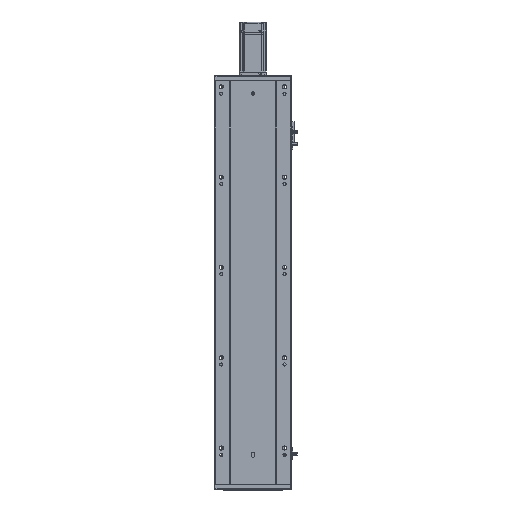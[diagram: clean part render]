
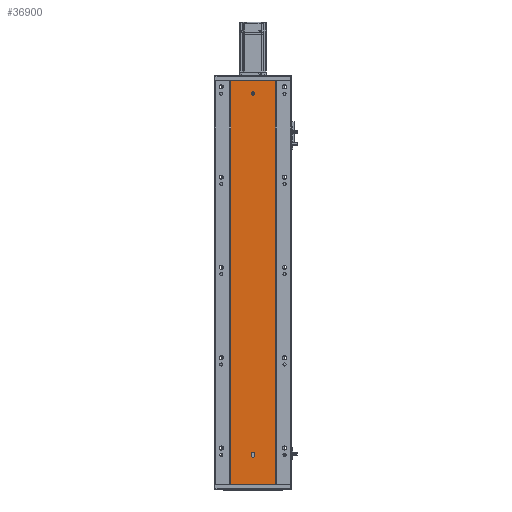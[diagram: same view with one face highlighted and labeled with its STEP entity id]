
A CAD part, front view. The second image highlights one B-rep face of the part: STEP entity #36900.
In plain terms, the highlighted planar face has unit normal (0, -1, 0).
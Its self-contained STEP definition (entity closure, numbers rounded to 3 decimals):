
#96 = VERTEX_POINT ( 'NONE', #57451 ) ;
#914 = VERTEX_POINT ( 'NONE', #24411 ) ;
#1108 = CARTESIAN_POINT ( 'NONE',  ( 136.47, 79.476, 870. ) ) ;
#1570 = DIRECTION ( 'NONE',  ( 0., -1., 0. ) ) ;
#3388 = LINE ( 'NONE', #47094, #43806 ) ;
#3857 = DIRECTION ( 'NONE',  ( 0., -1., 0. ) ) ;
#4613 = B_SPLINE_CURVE_WITH_KNOTS ( 'NONE', 3,
 ( #50857, #20137, #40697, #40466 ),
 .UNSPECIFIED., .F., .F.,
 ( 4, 4 ),
 ( 0., 1. ),
 .UNSPECIFIED. ) ;
#4629 = EDGE_CURVE ( 'NONE', #11044, #21401, #23922, .T. ) ;
#5301 = CARTESIAN_POINT ( 'NONE',  ( 185.97, 79.476, 0. ) ) ;
#5427 = DIRECTION ( 'NONE',  ( 0., 0., -1. ) ) ;
#5432 = ORIENTED_EDGE ( 'NONE', *, *, #33915, .F. ) ;
#6558 = LINE ( 'NONE', #38291, #56705 ) ;
#6796 = DIRECTION ( 'NONE',  ( 0., 0., -1. ) ) ;
#6905 = ORIENTED_EDGE ( 'NONE', *, *, #16962, .F. ) ;
#7137 = CARTESIAN_POINT ( 'NONE',  ( 0., 79.476, 894. ) ) ;
#7594 = DIRECTION ( 'NONE',  ( 0., 1., 0. ) ) ;
#9900 = CARTESIAN_POINT ( 'NONE',  ( 136.47, 79.476, 60.5 ) ) ;
#10475 = VERTEX_POINT ( 'NONE', #27610 ) ;
#10907 = EDGE_CURVE ( 'NONE', #51112, #21795, #56482, .T. ) ;
#11044 = VERTEX_POINT ( 'NONE', #29350 ) ;
#12532 = DIRECTION ( 'NONE',  ( 0., 0., 1. ) ) ;
#13886 = ORIENTED_EDGE ( 'NONE', *, *, #27188, .T. ) ;
#14073 = EDGE_LOOP ( 'NONE', ( #61901, #58064, #54766, #5432, #30057 ) ) ;
#14292 = CARTESIAN_POINT ( 'NONE',  ( 136.47, 79.476, 866. ) ) ;
#14548 = VERTEX_POINT ( 'NONE', #59504 ) ;
#15358 = CARTESIAN_POINT ( 'NONE',  ( 136.47, 79.476, 64.5 ) ) ;
#16962 = EDGE_CURVE ( 'NONE', #51088, #10475, #20549, .T. ) ;
#17757 = EDGE_CURVE ( 'NONE', #96, #914, #36864, .T. ) ;
#18016 = EDGE_LOOP ( 'NONE', ( #49380, #6905, #25510, #13886 ) ) ;
#18319 = EDGE_LOOP ( 'NONE', ( #38070, #48375 ) ) ;
#19987 = DIRECTION ( 'NONE',  ( 0., -1., 0. ) ) ;
#20052 = DIRECTION ( 'NONE',  ( 0., 0., -1. ) ) ;
#20137 = CARTESIAN_POINT ( 'NONE',  ( 86.97, 79.476, 596. ) ) ;
#20139 = EDGE_CURVE ( 'NONE', #914, #51112, #56709, .T. ) ;
#20549 = B_SPLINE_CURVE_WITH_KNOTS ( 'NONE', 3,
 ( #31081, #56630, #30404, #5301 ),
 .UNSPECIFIED., .F., .F.,
 ( 4, 4 ),
 ( 0., 1. ),
 .UNSPECIFIED. ) ;
#20790 = DIRECTION ( 'NONE',  ( 0., -1., 0. ) ) ;
#21401 = VERTEX_POINT ( 'NONE', #1108 ) ;
#21795 = VERTEX_POINT ( 'NONE', #9900 ) ;
#23226 = CIRCLE ( 'NONE', #62653, 4. ) ;
#23922 = CIRCLE ( 'NONE', #43639, 4. ) ;
#24411 = CARTESIAN_POINT ( 'NONE',  ( 132.47, 79.476, 67.5 ) ) ;
#24431 = DIRECTION ( 'NONE',  ( 0., 0., -1. ) ) ;
#25202 = AXIS2_PLACEMENT_3D ( 'NONE', #7137, #7594, #12532 ) ;
#25510 = ORIENTED_EDGE ( 'NONE', *, *, #44851, .F. ) ;
#26583 = FACE_BOUND ( 'NONE', #18319, .T. ) ;
#26797 = DIRECTION ( 'NONE',  ( 0., 0., 1. ) ) ;
#27188 = EDGE_CURVE ( 'NONE', #42899, #34586, #4613, .T. ) ;
#27610 = CARTESIAN_POINT ( 'NONE',  ( 185.97, 79.476, 0. ) ) ;
#28986 = EDGE_CURVE ( 'NONE', #21401, #11044, #53420, .T. ) ;
#29350 = CARTESIAN_POINT ( 'NONE',  ( 136.47, 79.476, 862. ) ) ;
#30057 = ORIENTED_EDGE ( 'NONE', *, *, #63130, .F. ) ;
#30404 = CARTESIAN_POINT ( 'NONE',  ( 185.97, 79.476, 298. ) ) ;
#30488 = DIRECTION ( 'NONE',  ( 0., 0., -1. ) ) ;
#30810 = VECTOR ( 'NONE', #20052, 1000. ) ;
#31081 = CARTESIAN_POINT ( 'NONE',  ( 185.97, 79.476, 894. ) ) ;
#31807 = LINE ( 'NONE', #59281, #64205 ) ;
#32211 = FACE_OUTER_BOUND ( 'NONE', #18016, .T. ) ;
#33915 = EDGE_CURVE ( 'NONE', #14548, #96, #3388, .T. ) ;
#34586 = VERTEX_POINT ( 'NONE', #38901 ) ;
#35220 = CARTESIAN_POINT ( 'NONE',  ( 132.47, 79.476, 67.5 ) ) ;
#35608 = DIRECTION ( 'NONE',  ( 0., 0., -1. ) ) ;
#36864 = CIRCLE ( 'NONE', #50317, 4. ) ;
#36900 = ADVANCED_FACE ( 'NONE', ( #59748, #26583, #32211 ), #53702, .F. ) ;
#37498 = AXIS2_PLACEMENT_3D ( 'NONE', #15358, #20790, #5427 ) ;
#38070 = ORIENTED_EDGE ( 'NONE', *, *, #4629, .F. ) ;
#38291 = CARTESIAN_POINT ( 'NONE',  ( 0., 79.476, 894. ) ) ;
#38901 = CARTESIAN_POINT ( 'NONE',  ( 86.97, 79.476, 0. ) ) ;
#40466 = CARTESIAN_POINT ( 'NONE',  ( 86.97, 79.476, 0. ) ) ;
#40697 = CARTESIAN_POINT ( 'NONE',  ( 86.97, 79.476, 298. ) ) ;
#42899 = VERTEX_POINT ( 'NONE', #60648 ) ;
#43509 = CARTESIAN_POINT ( 'NONE',  ( 185.97, 79.476, 894. ) ) ;
#43639 = AXIS2_PLACEMENT_3D ( 'NONE', #14292, #19987, #35608 ) ;
#43806 = VECTOR ( 'NONE', #26797, 1000. ) ;
#44851 = EDGE_CURVE ( 'NONE', #42899, #51088, #6558, .T. ) ;
#44994 = CARTESIAN_POINT ( 'NONE',  ( 136.47, 79.476, 866. ) ) ;
#47094 = CARTESIAN_POINT ( 'NONE',  ( 140.47, 79.476, 67.5 ) ) ;
#48375 = ORIENTED_EDGE ( 'NONE', *, *, #28986, .F. ) ;
#49380 = ORIENTED_EDGE ( 'NONE', *, *, #65714, .T. ) ;
#50317 = AXIS2_PLACEMENT_3D ( 'NONE', #52443, #1570, #6796 ) ;
#50857 = CARTESIAN_POINT ( 'NONE',  ( 86.97, 79.476, 894. ) ) ;
#51088 = VERTEX_POINT ( 'NONE', #43509 ) ;
#51112 = VERTEX_POINT ( 'NONE', #54819 ) ;
#52443 = CARTESIAN_POINT ( 'NONE',  ( 136.47, 79.476, 67.5 ) ) ;
#53420 = CIRCLE ( 'NONE', #63659, 4. ) ;
#53702 = PLANE ( 'NONE',  #25202 ) ;
#54766 = ORIENTED_EDGE ( 'NONE', *, *, #17757, .F. ) ;
#54819 = CARTESIAN_POINT ( 'NONE',  ( 132.47, 79.476, 64.5 ) ) ;
#56482 = CIRCLE ( 'NONE', #37498, 4. ) ;
#56630 = CARTESIAN_POINT ( 'NONE',  ( 185.97, 79.476, 596. ) ) ;
#56705 = VECTOR ( 'NONE', #64283, 1000. ) ;
#56709 = LINE ( 'NONE', #35220, #30810 ) ;
#56715 = CARTESIAN_POINT ( 'NONE',  ( 136.47, 79.476, 64.5 ) ) ;
#56949 = DIRECTION ( 'NONE',  ( 0., -1., 0. ) ) ;
#57451 = CARTESIAN_POINT ( 'NONE',  ( 140.47, 79.476, 67.5 ) ) ;
#58064 = ORIENTED_EDGE ( 'NONE', *, *, #20139, .F. ) ;
#59281 = CARTESIAN_POINT ( 'NONE',  ( 0., 79.476, 0. ) ) ;
#59504 = CARTESIAN_POINT ( 'NONE',  ( 140.47, 79.476, 64.5 ) ) ;
#59748 = FACE_BOUND ( 'NONE', #14073, .T. ) ;
#59929 = DIRECTION ( 'NONE',  ( 1., 0., 0. ) ) ;
#60648 = CARTESIAN_POINT ( 'NONE',  ( 86.97, 79.476, 894. ) ) ;
#61901 = ORIENTED_EDGE ( 'NONE', *, *, #10907, .F. ) ;
#62653 = AXIS2_PLACEMENT_3D ( 'NONE', #56715, #56949, #30488 ) ;
#63130 = EDGE_CURVE ( 'NONE', #21795, #14548, #23226, .T. ) ;
#63659 = AXIS2_PLACEMENT_3D ( 'NONE', #44994, #3857, #24431 ) ;
#64205 = VECTOR ( 'NONE', #59929, 1000. ) ;
#64283 = DIRECTION ( 'NONE',  ( 1., 0., 0. ) ) ;
#65714 = EDGE_CURVE ( 'NONE', #34586, #10475, #31807, .T. ) ;
